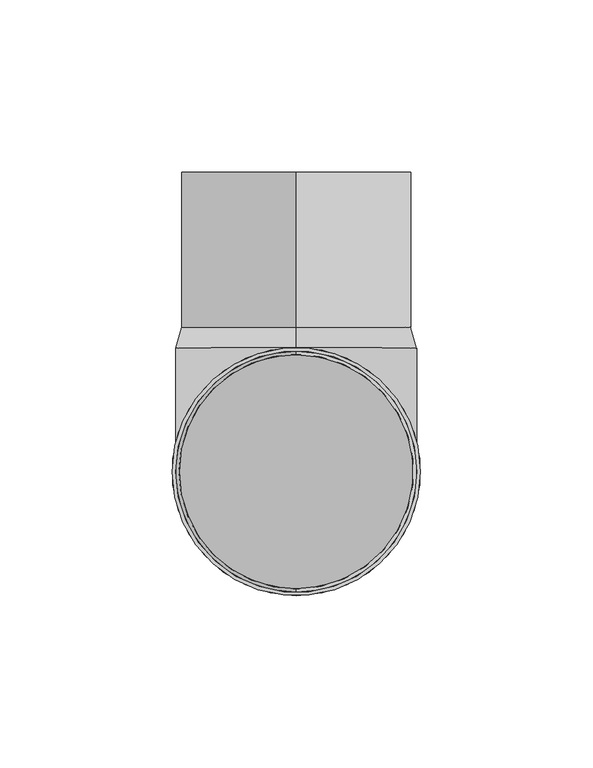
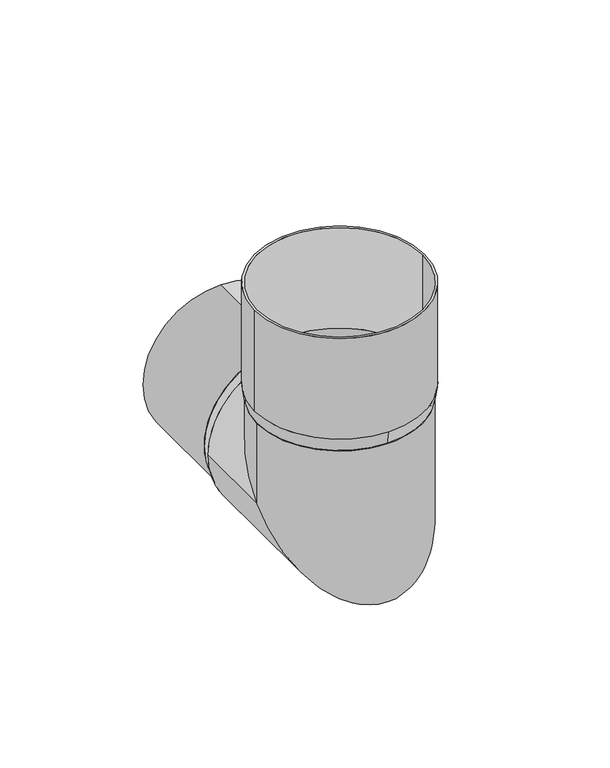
"""IFC4 building model written with IfcOpenShell, lengths in millimetres: proxy geometry, GROVIK_Downpipe_Knee : N70_90°_Down."""

from ifc_helpers import new_model, si_unit, point, frame, frame_2d, origin, origin_with_axes, origin_2d, place, context, project, spatial, polyline, circle_curve, ellipse_curve, trimmed, segment, composite_curve, outline, extrude, source, transform, mapped, element, save
from ifc_brep_helpers import plane_surface, cylinder_surface, revolved_surface, advanced_brep


def generic_models_c6aa1421(model_context):
    return source(origin(), model_context, "Body", "SolidModel", [
        extrude(outline(composite_curve([segment(trimmed(circle_curve(origin_2d(), 36.0), [point((-36.0, 0.0))], [point((36.0, 0.0))], False, "CARTESIAN"), True, "CONTINUOUS"), segment(trimmed(circle_curve(origin_2d(), 36.0), [point((36.0, 0.0))], [point((-36.0, 0.0))], False, "CARTESIAN"), True, "CONTINUOUS")], self_intersect=False), holes=[composite_curve([segment(trimmed(circle_curve(origin_2d(), 35.0), [point((-35.0, 0.0))], [point((35.0, 0.0))], True, "CARTESIAN"), True, "CONTINUOUS"), segment(trimmed(circle_curve(origin_2d(), 35.0), [point((35.0, 0.0))], [point((-35.0, 0.0))], True, "CARTESIAN"), True, "CONTINUOUS")], self_intersect=False)]), frame((0.0, 0.0, 6.0), z_axis=(0.0, 0.0, 1.0), x_axis=(1.0, 0.0, 0.0)), (0.0, 0.0, 1.0), 45.0),
        advanced_brep(
        [(-35.0, 0.0, 0.0), (35.0, 0.0, 0.0), (-34.0, 0.0, 0.0), (34.0, 0.0, 0.0), (-34.0, 0.0, -35.9), (34.0, 0.0, -35.9), (-35.0, 0.0, -35.9), (35.0, 0.0, -35.9), (-35.0, 35.9, -35.9), (35.0, 35.9, -35.9), (-34.0, 35.9, -35.9), (34.0, 35.9, -35.9)],
        [
            (0, 1, circle_curve(origin_with_axes(), 35.0)),
            (1, 0, circle_curve(origin_with_axes(), 35.0)),
            (2, 3, circle_curve(frame((0.0, 0.0, 0.0), z_axis=(0.0, 0.0, -1.0), x_axis=(1.0, 0.0, 0.0)), 34.0)),
            (3, 2, circle_curve(frame((0.0, 0.0, 0.0), z_axis=(0.0, 0.0, -1.0), x_axis=(1.0, 0.0, 0.0)), 34.0)),
            (2, 4),
            (4, 5, ellipse_curve(frame((0.0, 0.0, -35.9), z_axis=(0.0, 0.7071067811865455, -0.7071067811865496), x_axis=(0.0, -0.7071067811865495, -0.7071067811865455)), 48.0832611, 34.0)),
            (5, 3),
            (5, 4, ellipse_curve(frame((0.0, 0.0, -35.9), z_axis=(0.0, 0.7071067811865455, -0.7071067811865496), x_axis=(0.0, -0.7071067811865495, -0.7071067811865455)), 48.0832611, 34.0)),
            (0, 6),
            (6, 7, ellipse_curve(frame((0.0, 0.0, -35.9), z_axis=(0.0, -0.7071067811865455, 0.7071067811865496), x_axis=(0.0, 0.7071067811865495, 0.7071067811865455)), 49.4974747, 35.0)),
            (7, 1),
            (7, 6, ellipse_curve(frame((0.0, 0.0, -35.9), z_axis=(0.0, -0.7071067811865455, 0.7071067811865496), x_axis=(0.0, 0.7071067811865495, 0.7071067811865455)), 49.4974747, 35.0)),
            (8, 9, circle_curve(frame((0.0, 35.9, -35.9), z_axis=(0.0, 1.0, 0.0), x_axis=(1.0, 0.0, 0.0)), 35.0)),
            (9, 8, circle_curve(frame((0.0, 35.9, -35.9), z_axis=(0.0, 1.0, 0.0), x_axis=(1.0, 0.0, 0.0)), 35.0)),
            (10, 11, circle_curve(frame((0.0, 35.9, -35.9), z_axis=(0.0, -1.0, 0.0), x_axis=(1.0, 0.0, 0.0)), 34.0)),
            (11, 10, circle_curve(frame((0.0, 35.9, -35.9), z_axis=(0.0, -1.0, 0.0), x_axis=(1.0, 0.0, 0.0)), 34.0)),
            (4, 10),
            (11, 5),
            (6, 8),
            (9, 7),
        ],
        [
            plane_surface(origin_with_axes()),
            revolved_surface(polyline([(34.0, 0.0, -69.89999998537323), (34.0, 0.0, 0.0)]), (0.0, 0.0, 0.0), (0.0, 0.0, -1.0)),
            cylinder_surface(origin_with_axes(), 35.0),
            plane_surface(frame((0.0, 35.9, -35.9), z_axis=(0.0, 1.0, 0.0), x_axis=(1.0, 0.0, 0.0))),
            revolved_surface(polyline([(34.0, 35.9, -35.9), (34.0, -33.99999998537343, -35.9)]), (0.0, 0.0, -35.9), (0.0, 1.0, 0.0)),
            cylinder_surface(frame((0.0, 0.0, -35.9), z_axis=(0.0, -1.0, 0.0), x_axis=(1.0, 0.0, 0.0)), 35.0),
        ],
        [
            (0, [[1, 2], [3, 4]]),
            (1, [[-3, 5, 6, 7]]),
            (1, [[-4, -7, 8, -5]]),
            (2, [[-1, 9, 10, 11]]),
            (2, [[-2, -11, 12, -9]]),
            (3, [[13, 14], [15, 16]]),
            (4, [[-6, 17, -16, 18]]),
            (4, [[-8, -18, -15, -17]]),
            (5, [[-10, 19, -14, 20]]),
            (5, [[-12, -20, -13, -19]]),
        ],
    ),
        extrude(outline(composite_curve([segment(trimmed(circle_curve(frame_2d((-35.9, 0.0)), 33.2), [point((-2.7, 0.0))], [point((-69.1, 0.0))], False, "CARTESIAN"), True, "CONTINUOUS"), segment(trimmed(circle_curve(frame_2d((-35.9, 0.0)), 33.2), [point((-69.1, 0.0))], [point((-2.7, 0.0))], False, "CARTESIAN"), True, "CONTINUOUS")], self_intersect=False), holes=[composite_curve([segment(trimmed(circle_curve(frame_2d((-35.9, 0.0)), 32.2), [point((-3.7, 0.0))], [point((-68.1, 0.0))], True, "CARTESIAN"), True, "CONTINUOUS"), segment(trimmed(circle_curve(frame_2d((-35.9, 0.0)), 32.2), [point((-68.1, 0.0))], [point((-3.7, 0.0))], True, "CARTESIAN"), True, "CONTINUOUS")], self_intersect=False)]), frame((0.0, 41.9, 0.0), z_axis=(0.0, 1.0, 0.0), x_axis=(0.0, 0.0, 1.0)), (0.0, 0.0, 1.0), 45.0),
        advanced_brep(
        [(0.0, 36.0, 6.0), (0.0, -36.0, 6.0), (0.0, 35.0, 6.0), (0.0, -35.0, 6.0), (0.0, 35.0, 0.0), (0.0, -35.0, 0.0), (0.0, -34.0, 0.0), (0.0, 34.0, 0.0)],
        [
            (0, 1, circle_curve(frame((0.0, 0.0, 6.0), z_axis=(0.0, 0.0, 1.0), x_axis=(0.0, 1.0, 0.0)), 36.0)),
            (1, 0, circle_curve(frame((0.0, 0.0, 6.0), z_axis=(0.0, 0.0, 1.0), x_axis=(0.0, -1.0, 0.0)), 36.0)),
            (2, 3, circle_curve(frame((0.0, 0.0, 6.0), z_axis=(0.0, 0.0, -1.0), x_axis=(0.0, -1.0, 0.0)), 35.0)),
            (3, 2, circle_curve(frame((0.0, 0.0, 6.0), z_axis=(0.0, 0.0, -1.0), x_axis=(0.0, 1.0, 0.0)), 35.0)),
            (4, 5, circle_curve(frame((0.0, 0.0, 0.0), z_axis=(0.0, 0.0, -1.0), x_axis=(0.0, -1.0, 0.0)), 35.0)),
            (5, 4, circle_curve(frame((0.0, 0.0, 0.0), z_axis=(0.0, 0.0, -1.0), x_axis=(0.0, 1.0, 0.0)), 35.0)),
            (6, 7, circle_curve(frame((0.0, 0.0, 0.0), z_axis=(0.0, 0.0, 1.0), x_axis=(0.0, -1.0, 0.0)), 34.0)),
            (7, 6, circle_curve(frame((0.0, 0.0, 0.0), z_axis=(0.0, 0.0, 1.0), x_axis=(0.0, 1.0, 0.0)), 34.0)),
            (1, 5),
            (4, 0),
            (6, 3),
            (2, 7),
        ],
        [
            plane_surface(frame((0.0, 0.0, 6.0), z_axis=(0.0, 0.0, 1.0), x_axis=(-1.0, 0.0, 0.0))),
            plane_surface(frame((0.0, 0.0, 0.0), z_axis=(0.0, 0.0, -1.0), x_axis=(-1.0, 0.0, 0.0))),
            revolved_surface(polyline([(0.0, 35.0, 0.0), (0.0, 36.0, 6.0)]), (0.0, 0.0, -210.0), (0.0, 0.0, 1.0)),
            revolved_surface(polyline([(0.0, -35.0, 0.0), (0.0, -36.0, 6.0)]), (0.0, 0.0, -210.0), (0.0, 0.0, 1.0)),
            revolved_surface(polyline([(0.0, -35.0, 6.0), (0.0, -34.0, 0.0)]), (0.0, 0.0, -204.0), (0.0, 0.0, 1.0)),
        ],
        [
            (0, [[1, 2], [3, 4]]),
            (1, [[5, 6], [7, 8]]),
            (2, [[-2, 9, -5, 10]]),
            (3, [[-1, -10, -6, -9]]),
            (4, [[11, -3, 12, -7]]),
            (4, [[-11, -8, -12, -4]]),
        ],
    ),
        advanced_brep(
        [(0.0, 41.9, -69.1), (0.0, 41.9, -2.7), (0.0, 41.9, -68.1), (0.0, 41.9, -3.7), (0.0, 35.9, -70.9), (0.0, 35.9, -0.9), (0.0, 35.9, -1.9), (0.0, 35.9, -69.9)],
        [
            (0, 1, circle_curve(frame((0.0, 41.9, -35.9), z_axis=(0.0, 1.0, 0.0), x_axis=(0.0, 0.0, -1.0)), 33.2)),
            (1, 0, circle_curve(frame((0.0, 41.9, -35.9), z_axis=(0.0, 1.0, 0.0), x_axis=(0.0, 0.0, 1.0)), 33.2)),
            (2, 3, circle_curve(frame((0.0, 41.9, -35.9), z_axis=(0.0, -1.0, 0.0), x_axis=(0.0, 0.0, 1.0)), 32.2)),
            (3, 2, circle_curve(frame((0.0, 41.9, -35.9), z_axis=(0.0, -1.0, 0.0), x_axis=(0.0, 0.0, -1.0)), 32.2)),
            (4, 5, circle_curve(frame((0.0, 35.9, -35.9), z_axis=(0.0, -1.0, 0.0), x_axis=(0.0, 0.0, 1.0)), 35.0)),
            (5, 4, circle_curve(frame((0.0, 35.9, -35.9), z_axis=(0.0, -1.0, 0.0), x_axis=(0.0, 0.0, -1.0)), 35.0)),
            (6, 7, circle_curve(frame((0.0, 35.9, -35.9), z_axis=(0.0, 1.0, 0.0), x_axis=(0.0, 0.0, 1.0)), 34.0)),
            (7, 6, circle_curve(frame((0.0, 35.9, -35.9), z_axis=(0.0, 1.0, 0.0), x_axis=(0.0, 0.0, -1.0)), 34.0)),
            (1, 5),
            (4, 0),
            (6, 3),
            (2, 7),
        ],
        [
            plane_surface(frame((0.0, 41.9, -35.9), z_axis=(0.0, 1.0, 0.0), x_axis=(-1.0, 0.0, 0.0))),
            plane_surface(frame((0.0, 35.9, -35.9), z_axis=(0.0, -1.0, 0.0), x_axis=(-1.0, 0.0, 0.0))),
            revolved_surface(polyline([(0.0, 41.900000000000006, -2.699999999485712), (0.0, 35.900000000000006, -0.8999999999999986)]), (0.0, 152.5666667, -35.9), (0.0, -1.0, 0.0)),
            revolved_surface(polyline([(0.0, 41.900000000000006, -69.10000000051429), (0.0, 35.900000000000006, -70.9)]), (0.0, 152.5666667, -35.9), (0.0, -1.0, 0.0)),
            revolved_surface(polyline([(0.0, 35.900000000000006, -1.8999999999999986), (0.0, 41.900000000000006, -3.700000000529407)]), (0.0, 149.2333333, -35.9), (0.0, -1.0, 0.0)),
        ],
        [
            (0, [[1, 2], [3, 4]]),
            (1, [[5, 6], [7, 8]]),
            (2, [[-2, 9, -5, 10]]),
            (3, [[-1, -10, -6, -9]]),
            (4, [[11, -3, 12, -7]]),
            (4, [[-11, -8, -12, -4]]),
        ],
    ),
    ])


if __name__ == "__main__":
    model = new_model("IFC4")
    model_context = context("Model", 3, world=origin())
    ifc_project = project(units=[si_unit("LENGTHUNIT", "METRE", prefix="MILLI")], contexts=[model_context])
    site = spatial("IfcSite", under=ifc_project)
    building = spatial("IfcBuilding", under=site)
    placement = place(None, origin())
    generic_models_shape = generic_models_c6aa1421(model_context)
    element("IfcBuildingElementProxy", 1, Name="GROVIK_Downpipe_Knee : N70_90°_Down", ObjectType="GROVIK_Downpipe_Knee : N70_90°_Down", at=placement, inside=building, context=model_context, shape_type="MappedRepresentation", body=[
        mapped(generic_models_shape, transform((0.0, 0.0, 0.0), x_axis=(1.0, 0.0, 0.0), y_axis=(0.0, 1.0, 0.0), z_axis=(0.0, 0.0, 1.0))),
    ])
    save(model, "model.ifc")
